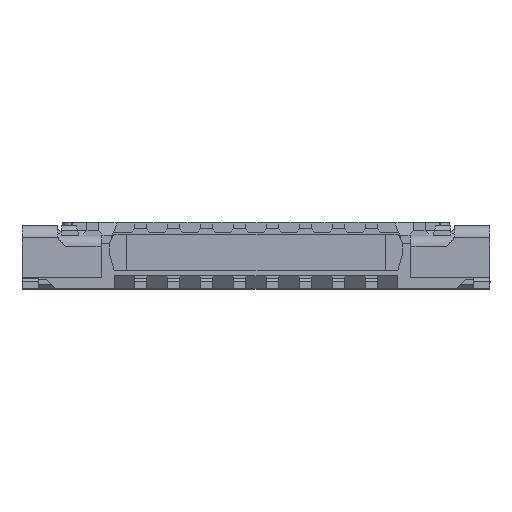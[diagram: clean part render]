
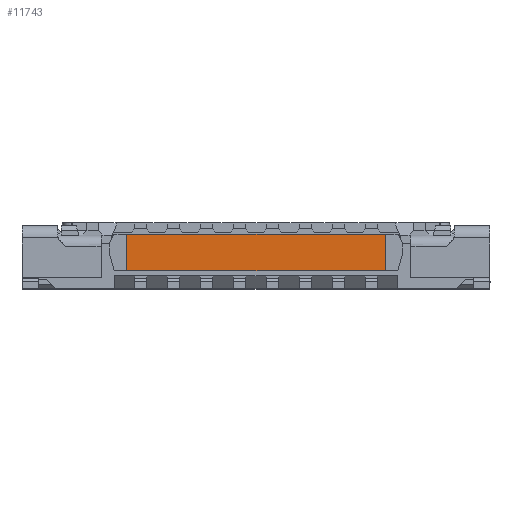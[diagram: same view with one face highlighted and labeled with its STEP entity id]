
A CAD part, top view. The second image highlights one B-rep face of the part: STEP entity #11743.
In plain terms, the highlighted planar face has unit normal (0, 0, 1).
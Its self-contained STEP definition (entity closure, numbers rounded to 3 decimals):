
#141 = VECTOR ( 'NONE', #3472, 1000. ) ;
#588 = VERTEX_POINT ( 'NONE', #16831 ) ;
#866 = DIRECTION ( 'NONE',  ( -1., 0., 0. ) ) ;
#961 = CARTESIAN_POINT ( 'NONE',  ( -7.525, 0.17, 0.99 ) ) ;
#1560 = VERTEX_POINT ( 'NONE', #17344 ) ;
#1776 = VERTEX_POINT ( 'NONE', #2071 ) ;
#2071 = CARTESIAN_POINT ( 'NONE',  ( -2.6, 0.19, 0.99 ) ) ;
#3276 = LINE ( 'NONE', #10672, #141 ) ;
#3305 = DIRECTION ( 'NONE',  ( -1., 0., 0. ) ) ;
#3472 = DIRECTION ( 'NONE',  ( 0., -1., 0. ) ) ;
#3986 = EDGE_LOOP ( 'NONE', ( #16936, #18285, #12486, #8974 ) ) ;
#5395 = EDGE_CURVE ( 'NONE', #588, #1776, #13474, .T. ) ;
#6008 = AXIS2_PLACEMENT_3D ( 'NONE', #961, #11405, #866 ) ;
#7001 = EDGE_CURVE ( 'NONE', #1560, #588, #19358, .T. ) ;
#7142 = EDGE_CURVE ( 'NONE', #14063, #1776, #10792, .T. ) ;
#8722 = VECTOR ( 'NONE', #16901, 1000. ) ;
#8931 = DIRECTION ( 'NONE',  ( -1., 0., 0. ) ) ;
#8974 = ORIENTED_EDGE ( 'NONE', *, *, #5395, .T. ) ;
#10672 = CARTESIAN_POINT ( 'NONE',  ( 0.15, 0.19, 0.99 ) ) ;
#10792 = LINE ( 'NONE', #16783, #15980 ) ;
#11202 = CARTESIAN_POINT ( 'NONE',  ( -2.6, 0.19, 0.99 ) ) ;
#11405 = DIRECTION ( 'NONE',  ( 0., 0., -1. ) ) ;
#11743 = ADVANCED_FACE ( 'NONE', ( #14253 ), #14456, .F. ) ;
#12486 = ORIENTED_EDGE ( 'NONE', *, *, #7001, .T. ) ;
#13474 = LINE ( 'NONE', #11202, #8722 ) ;
#14063 = VERTEX_POINT ( 'NONE', #14289 ) ;
#14253 = FACE_OUTER_BOUND ( 'NONE', #3986, .T. ) ;
#14289 = CARTESIAN_POINT ( 'NONE',  ( 0.15, 0.19, 0.99 ) ) ;
#14456 = PLANE ( 'NONE',  #6008 ) ;
#15980 = VECTOR ( 'NONE', #3305, 1000. ) ;
#16597 = CARTESIAN_POINT ( 'NONE',  ( -7.525, 0.58, 0.99 ) ) ;
#16783 = CARTESIAN_POINT ( 'NONE',  ( -7.875, 0.19, 0.99 ) ) ;
#16831 = CARTESIAN_POINT ( 'NONE',  ( -2.6, 0.58, 0.99 ) ) ;
#16901 = DIRECTION ( 'NONE',  ( 0., -1., 0. ) ) ;
#16911 = VECTOR ( 'NONE', #8931, 1000. ) ;
#16936 = ORIENTED_EDGE ( 'NONE', *, *, #7142, .F. ) ;
#17344 = CARTESIAN_POINT ( 'NONE',  ( 0.15, 0.58, 0.99 ) ) ;
#17623 = EDGE_CURVE ( 'NONE', #1560, #14063, #3276, .T. ) ;
#18285 = ORIENTED_EDGE ( 'NONE', *, *, #17623, .F. ) ;
#19358 = LINE ( 'NONE', #16597, #16911 ) ;
